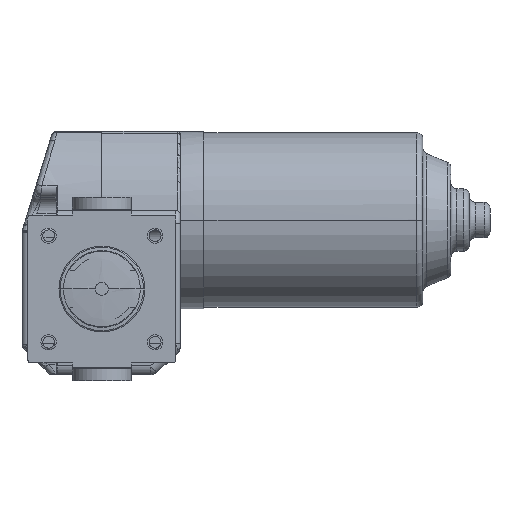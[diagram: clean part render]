
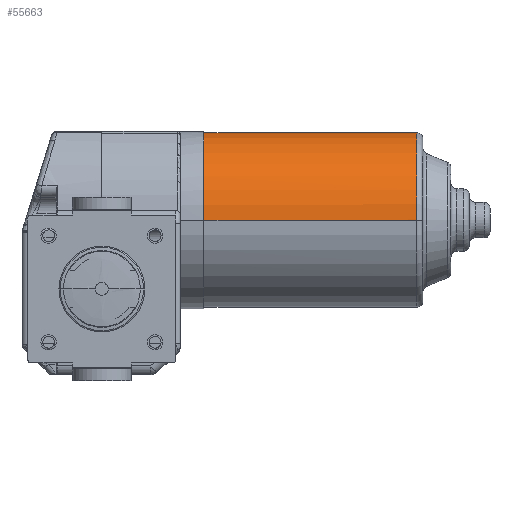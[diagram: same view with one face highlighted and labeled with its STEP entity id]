
A CAD part, left-side view. The second image highlights one B-rep face of the part: STEP entity #55663.
In plain terms, the highlighted cylindrical face has radius 29.5 mm (diameter 59 mm), a partial arc.
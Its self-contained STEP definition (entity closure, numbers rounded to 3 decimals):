
#53480=CARTESIAN_POINT('',(0.,-34.5,23.3));
#53481=DIRECTION('',(0.,-1.,0.));
#53482=DIRECTION('',(1.,0.,0.));
#53483=AXIS2_PLACEMENT_3D('',#53480,#53481,#53482);
#53495=DIRECTION('',(0.,1.,0.));
#53496=VECTOR('',#53495,72.);
#53497=CARTESIAN_POINT('',(29.5,-106.5,23.3));
#53498=LINE('',#53497,#53496);
#53499=DIRECTION('',(0.,-1.,0.));
#53500=VECTOR('',#53499,72.);
#53501=CARTESIAN_POINT('',(-29.5,-34.5,23.3));
#53502=LINE('',#53501,#53500);
#53553=CARTESIAN_POINT('',(0.,-106.5,23.3));
#53554=DIRECTION('',(0.,1.,0.));
#53555=DIRECTION('',(-1.,0.,0.));
#53556=AXIS2_PLACEMENT_3D('',#53553,#53554,#53555);
#53558=CARTESIAN_POINT('',(0.,-106.5,23.3));
#53559=DIRECTION('',(0.,1.,0.));
#53560=DIRECTION('',(-1.,0.,0.007));
#53561=AXIS2_PLACEMENT_3D('',#53558,#53559,#53560);
#55097=CARTESIAN_POINT('',(-29.5,-34.5,23.3));
#55098=CARTESIAN_POINT('',(29.5,-34.5,23.3));
#55099=VERTEX_POINT('',#55097);
#55100=VERTEX_POINT('',#55098);
#55106=CARTESIAN_POINT('',(-29.5,-106.5,23.3));
#55108=VERTEX_POINT('',#55106);
#55109=CARTESIAN_POINT('',(29.5,-106.5,23.3));
#55110=VERTEX_POINT('',#55109);
#55127=CARTESIAN_POINT('',(-29.499,-106.5,23.496));
#55128=VERTEX_POINT('',#55127);
#55651=CARTESIAN_POINT('',(0.,-33.06,23.3));
#55652=DIRECTION('',(0.,-1.,0.));
#55653=DIRECTION('',(-1.,0.,0.));
#55654=AXIS2_PLACEMENT_3D('',#55651,#55652,#55653);
#55655=CYLINDRICAL_SURFACE('',#55654,29.5);
#55656=ORIENTED_EDGE('',*,*,#55645,.F.);
#55657=ORIENTED_EDGE('',*,*,#55643,.F.);
#55658=ORIENTED_EDGE('',*,*,#55588,.F.);
#55659=ORIENTED_EDGE('',*,*,#55565,.F.);
#55660=ORIENTED_EDGE('',*,*,#55585,.F.);
#55661=EDGE_LOOP('',(#55656,#55657,#55658,#55659,#55660));
#55662=FACE_OUTER_BOUND('',#55661,.F.);
#55663=ADVANCED_FACE('',(#55662),#55655,.T.);
#53484=CIRCLE('',#53483,29.5);
#53557=CIRCLE('',#53556,29.5);
#53562=CIRCLE('',#53561,29.5);
#55565=EDGE_CURVE('',#55100,#55099,#53484,.T.);
#55585=EDGE_CURVE('',#55110,#55100,#53498,.T.);
#55588=EDGE_CURVE('',#55099,#55108,#53502,.T.);
#55643=EDGE_CURVE('',#55108,#55128,#53557,.T.);
#55645=EDGE_CURVE('',#55128,#55110,#53562,.T.);
